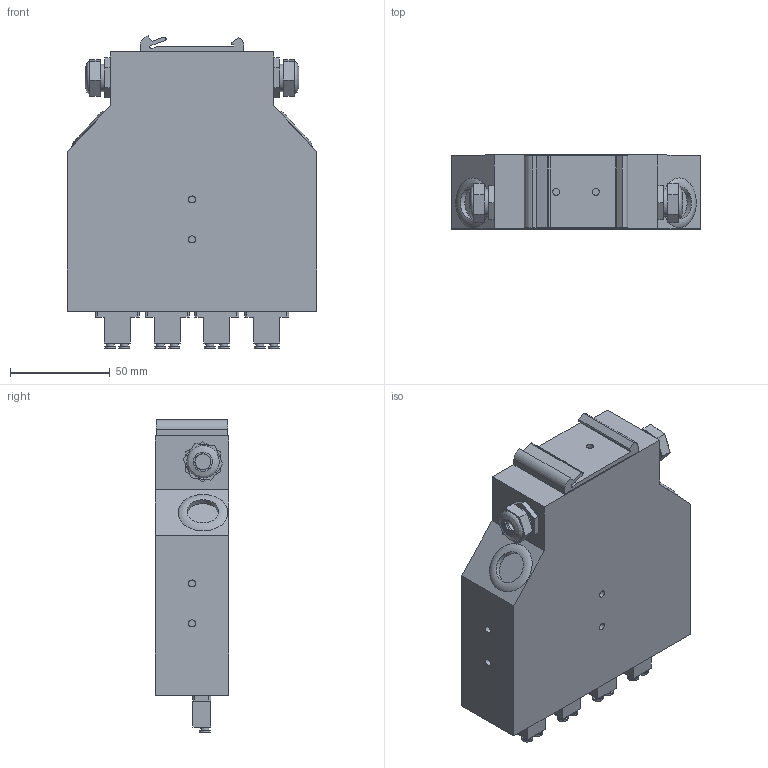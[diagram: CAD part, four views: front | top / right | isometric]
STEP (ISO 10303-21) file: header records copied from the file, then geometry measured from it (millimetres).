
FILE_DESCRIPTION(('TFLEX Exchange Step'),'2;1');
FILE_NAME('STK-OK-01-4LCD.stp', '2025-02-06T14:33:52+03:00',('Yuriy Romanov'),('Unknown organisation'),'TFLEX Exchange 2023.2','T-FLEX CAD','Unknown authorisation');
FILE_SCHEMA( ('AUTOMOTIVE_DESIGN { 1 0 10303 214 1 1 1 1 }') );
Length unit declared in the file: millimetre
Products named in the file (1): STK-OK-01-4LCD
Bounding box: 125 x 37 x 156.5 mm (x, y, z)
Volume: 556852.3 mm3; surface area: 69933.8 mm2
Topology: 14 solids, 14 shells, 873 faces, 2340 edges, 1552 vertices
Faces by surface type: plane 397, cylinder 236, cone 125, bspline 113, torus 2
Full cylindrical faces by diameter (mm): 3 x8, 3.5 x8, 4 x8, 5.5 x8, 8.05 x2, 8.823 x2, 9.2 x2, 11.932 x2, 12.555 x2, 13.8 x4, 16 x2, 20 x4
Entity records: 34807 total; most frequent: CARTESIAN_POINT 13523, ORIENTED_EDGE 4680, DIRECTION 4132, EDGE_CURVE 2340, AXIS2_PLACEMENT_3D 1617, VERTEX_POINT 1552, EDGE_LOOP 946, FACE_BOUND 946
